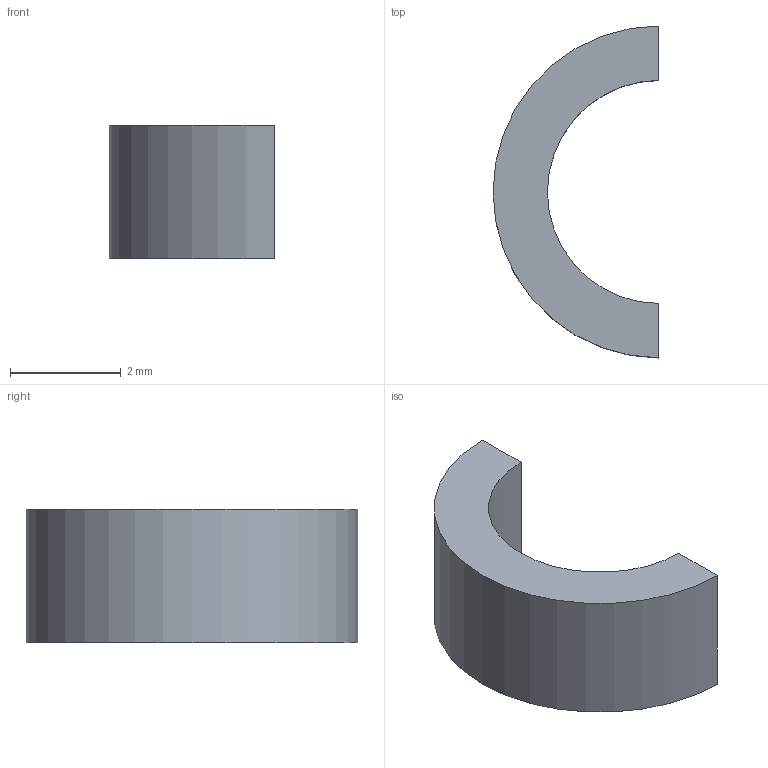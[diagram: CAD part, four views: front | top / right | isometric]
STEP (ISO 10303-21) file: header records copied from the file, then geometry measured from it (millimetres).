
FILE_DESCRIPTION(('Open CASCADE Model'),'2;1');
FILE_NAME('Open CASCADE Shape Model','2026-09-24T17:42:53',('Author'),( 'Open CASCADE'),'Open CASCADE STEP processor 7.8','Open CASCADE 7.8' ,'Unknown');
FILE_SCHEMA(('AUTOMOTIVE_DESIGN { 1 0 10303 214 1 1 1 1 }'));
Length unit declared in the file: millimetre
Products named in the file (1): Open CASCADE STEP translator 7.8 28
Bounding box: 2.99 x 5.98 x 2.4 mm (x, y, z)
Volume: 18.5 mm3; surface area: 57.8 mm2
Topology: 1 solids, 1 shells, 6 faces, 12 edges, 8 vertices
Faces by surface type: plane 4, cylinder 2
Entity records: 310 total; most frequent: CARTESIAN_POINT 67, DIRECTION 38, ORIENTED_EDGE 24, PCURVE 24, DEFINITIONAL_REPRESENTATION 24, B_SPLINE_CURVE_WITH_KNOTS 16, EDGE_CURVE 12, SURFACE_CURVE 12
